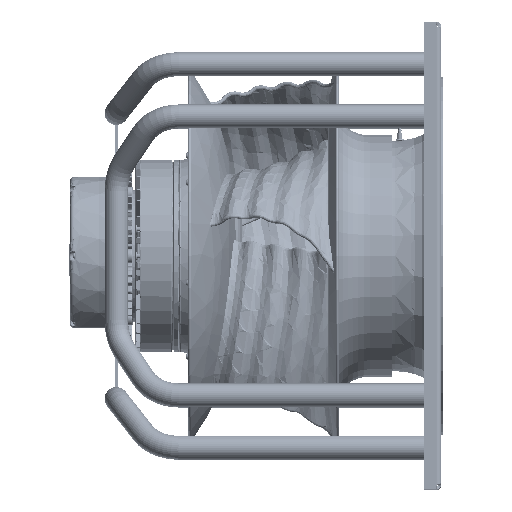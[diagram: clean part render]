
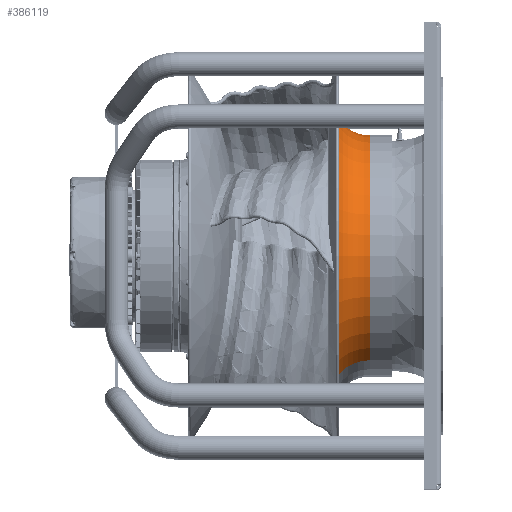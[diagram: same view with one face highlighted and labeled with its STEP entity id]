
A CAD part, top view. The second image highlights one B-rep face of the part: STEP entity #386119.
In plain terms, the highlighted toroidal (fillet/blend) face has major radius 226.832 mm and minor radius 53.882 mm.
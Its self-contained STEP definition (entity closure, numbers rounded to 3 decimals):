
#105639=CARTESIAN_POINT('',(217.005,0.,0.));
#105640=DIRECTION('',(1.,0.,0.));
#105641=DIRECTION('',(0.,0.866,-0.5));
#105642=AXIS2_PLACEMENT_3D('',#105639,#105640,#105641);
#106026=CARTESIAN_POINT('',(270.018,0.,0.));
#106027=DIRECTION('',(1.,0.,0.));
#106028=DIRECTION('',(0.,0.866,-0.5));
#106029=AXIS2_PLACEMENT_3D('',#106026,#106027,#106028);
#106031=CARTESIAN_POINT('',(270.018,196.442,
-113.416));
#106032=DIRECTION('',(0.,-0.5,-0.866));
#106033=DIRECTION('',(0.,-0.866,0.5));
#106034=AXIS2_PLACEMENT_3D('',#106031,#106032,#106033);
#106036=CARTESIAN_POINT('',(270.018,-196.442,
113.416));
#106037=DIRECTION('',(0.,0.5,0.866));
#106038=DIRECTION('',(0.,0.866,-0.5));
#106039=AXIS2_PLACEMENT_3D('',#106036,#106037,#106038);
#128826=CARTESIAN_POINT('',(270.018,149.779,-86.475));
#128827=CARTESIAN_POINT('',(217.005,204.789,
-118.235));
#128828=VERTEX_POINT('',#128826);
#128829=VERTEX_POINT('',#128827);
#128850=CARTESIAN_POINT('',(270.018,-149.779,86.475));
#128851=CARTESIAN_POINT('',(217.005,-204.789,
118.235));
#128852=VERTEX_POINT('',#128850);
#128853=VERTEX_POINT('',#128851);
#386105=CARTESIAN_POINT('',(270.018,0.,0.));
#386106=DIRECTION('',(1.,0.,0.));
#386107=DIRECTION('',(0.,-0.866,0.5));
#386108=AXIS2_PLACEMENT_3D('',#386105,#386106,#386107);
#386109=TOROIDAL_SURFACE('',#386108,226.832,53.882);
#386111=ORIENTED_EDGE('',*,*,#386110,.F.);
#386113=ORIENTED_EDGE('',*,*,#386112,.T.);
#386115=ORIENTED_EDGE('',*,*,#386114,.T.);
#386116=ORIENTED_EDGE('',*,*,#385965,.F.);
#386117=EDGE_LOOP('',(#386111,#386113,#386115,#386116));
#386118=FACE_OUTER_BOUND('',#386117,.F.);
#105643=CIRCLE('',#105642,236.47);
#106030=CIRCLE('',#106029,172.95);
#106035=CIRCLE('',#106034,53.882);
#106040=CIRCLE('',#106039,53.882);
#385965=EDGE_CURVE('',#128829,#128853,#105643,.T.);
#386110=EDGE_CURVE('',#128828,#128829,#106035,.T.);
#386112=EDGE_CURVE('',#128828,#128852,#106030,.T.);
#386114=EDGE_CURVE('',#128852,#128853,#106040,.T.);
#386119=ADVANCED_FACE('',(#386118),#386109,.F.);
